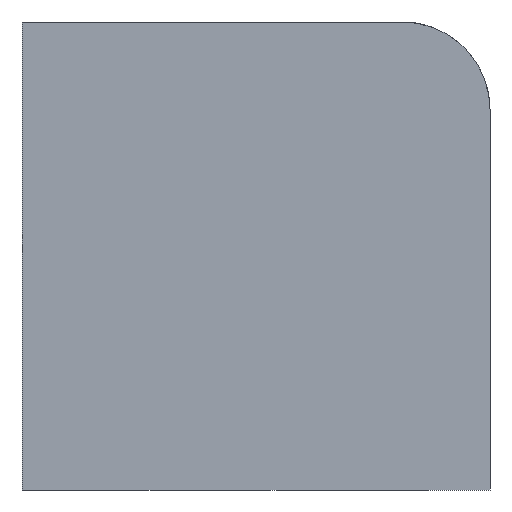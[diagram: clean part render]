
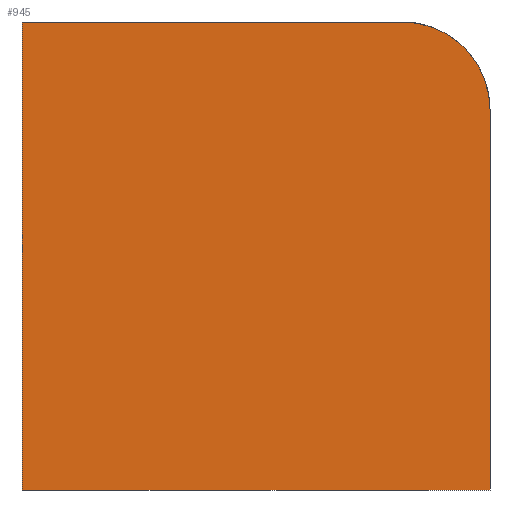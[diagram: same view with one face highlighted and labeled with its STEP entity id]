
A CAD part, left-side view. The second image highlights one B-rep face of the part: STEP entity #945.
In plain terms, the highlighted planar face has unit normal (-1, 0, 0).
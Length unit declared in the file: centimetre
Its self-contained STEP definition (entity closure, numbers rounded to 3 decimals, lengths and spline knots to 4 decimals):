
#14 = AXIS2_PLACEMENT_3D ( 'NONE', #800, #431, #1023 ) ;
#54 = CARTESIAN_POINT ( 'NONE',  ( 0., 0., 1000. ) ) ;
#80 = ORIENTED_EDGE ( 'NONE', *, *, #754, .T. ) ;
#148 = EDGE_CURVE ( 'NONE', #286, #1220, #573, .T. ) ;
#151 = EDGE_CURVE ( 'NONE', #1268, #216, #497, .T. ) ;
#158 = LINE ( 'NONE', #54, #925 ) ;
#191 = CARTESIAN_POINT ( 'NONE',  ( 0., 187.2964, 1000. ) ) ;
#216 = VERTEX_POINT ( 'NONE', #819 ) ;
#282 = AXIS2_PLACEMENT_3D ( 'NONE', #852, #865, #769 ) ;
#286 = VERTEX_POINT ( 'NONE', #677 ) ;
#298 = DIRECTION ( 'NONE',  ( 0., -1., 0. ) ) ;
#372 = FACE_OUTER_BOUND ( 'NONE', #411, .T. ) ;
#395 = CARTESIAN_POINT ( 'NONE',  ( 0., 1000., 0. ) ) ;
#411 = EDGE_LOOP ( 'NONE', ( #478, #1051, #622, #965, #80 ) ) ;
#431 = DIRECTION ( 'NONE',  ( -1., 0., 0. ) ) ;
#478 = ORIENTED_EDGE ( 'NONE', *, *, #524, .F. ) ;
#487 = LINE ( 'NONE', #395, #1280 ) ;
#497 = LINE ( 'NONE', #827, #1069 ) ;
#524 = EDGE_CURVE ( 'NONE', #286, #801, #158, .T. ) ;
#573 = CIRCLE ( 'NONE', #14, 187.2964 ) ;
#613 = EDGE_CURVE ( 'NONE', #1268, #1220, #765, .T. ) ;
#622 = ORIENTED_EDGE ( 'NONE', *, *, #613, .F. ) ;
#663 = DIRECTION ( 'NONE',  ( 0., 0., -1. ) ) ;
#677 = CARTESIAN_POINT ( 'NONE',  ( 0., 0., 812.7036 ) ) ;
#728 = DIRECTION ( 'NONE',  ( 0., 0., -1. ) ) ;
#754 = EDGE_CURVE ( 'NONE', #216, #801, #487, .T. ) ;
#765 = LINE ( 'NONE', #1160, #947 ) ;
#769 = DIRECTION ( 'NONE',  ( 0., 0., -1. ) ) ;
#792 = DIRECTION ( 'NONE',  ( 0., -1., 0. ) ) ;
#800 = CARTESIAN_POINT ( 'NONE',  ( 0., 187.2964, 812.7036 ) ) ;
#801 = VERTEX_POINT ( 'NONE', #1129 ) ;
#819 = CARTESIAN_POINT ( 'NONE',  ( 0., 1000., 0. ) ) ;
#827 = CARTESIAN_POINT ( 'NONE',  ( 0., 1000., 1000. ) ) ;
#852 = CARTESIAN_POINT ( 'NONE',  ( 0., 1000., 1000. ) ) ;
#865 = DIRECTION ( 'NONE',  ( 1., 0., 0. ) ) ;
#925 = VECTOR ( 'NONE', #663, 100. ) ;
#945 = ADVANCED_FACE ( 'NONE', ( #372 ), #1252, .F. ) ;
#947 = VECTOR ( 'NONE', #298, 100. ) ;
#965 = ORIENTED_EDGE ( 'NONE', *, *, #151, .T. ) ;
#1023 = DIRECTION ( 'NONE',  ( 0., 0., -1. ) ) ;
#1051 = ORIENTED_EDGE ( 'NONE', *, *, #148, .T. ) ;
#1069 = VECTOR ( 'NONE', #728, 100. ) ;
#1121 = CARTESIAN_POINT ( 'NONE',  ( 0., 1000., 1000. ) ) ;
#1129 = CARTESIAN_POINT ( 'NONE',  ( 0., 0., 0. ) ) ;
#1160 = CARTESIAN_POINT ( 'NONE',  ( 0., 1000., 1000. ) ) ;
#1220 = VERTEX_POINT ( 'NONE', #191 ) ;
#1252 = PLANE ( 'NONE',  #282 ) ;
#1268 = VERTEX_POINT ( 'NONE', #1121 ) ;
#1280 = VECTOR ( 'NONE', #792, 100. ) ;
